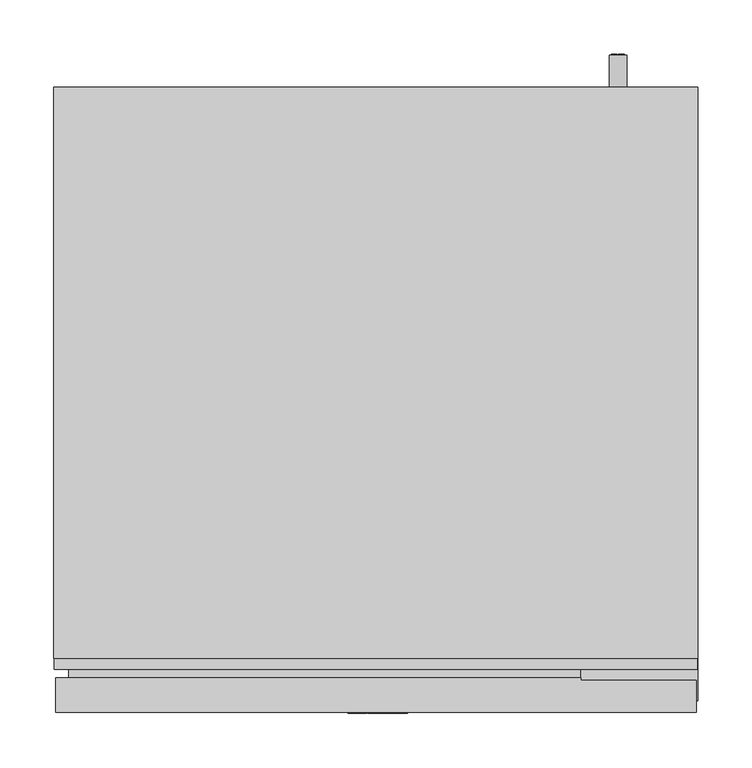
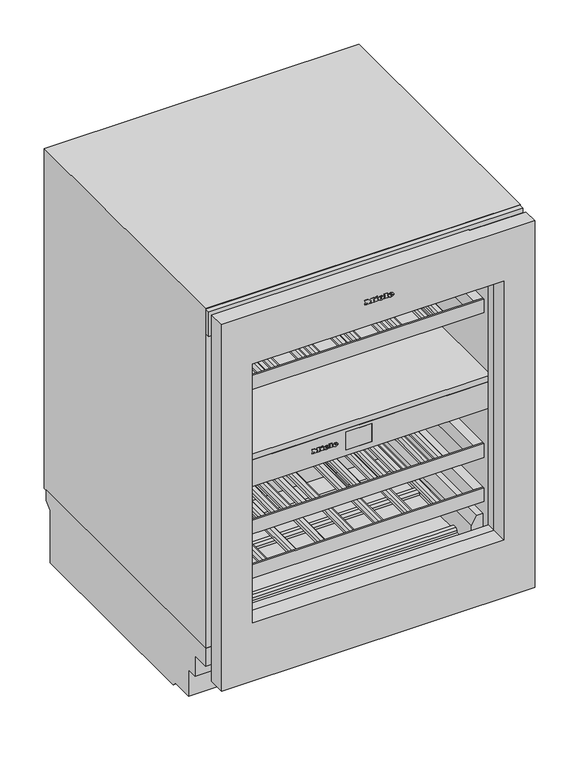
"""IFC4 building model written with IfcOpenShell, lengths in millimetres: proxy geometry, 12519560_EU1_KWTUS7096E_OBSW : 39709610_EU1_12519560_KWTUS7096E_OBSW."""

from ifc_helpers import new_model, si_unit, point, frame, frame_2d, origin, origin_with_axes, place, context, project, spatial, polyline, circle_curve, ellipse_curve, trimmed, segment, composite_curve, outline, extrude, faceted_brep, source, transform, mapped, element, save
from ifc_brep_helpers import plane_surface, cylinder_surface, revolved_surface, extruded_surface, advanced_brep


def specialty_equipment_700358eb(model_context):
    return source(origin(), model_context, "Body", "SolidModel", [
        extrude(outline(polyline([(768.991, -25.542), (768.991, -24.453), (762.97, -24.453), (762.97, -25.542), (761.458, -25.542), (761.458, -21.582), (762.97, -21.582), (762.97, -22.662), (766.7921247, -22.662), (761.458, -18.639), (766.8982223, -14.598), (762.97, -14.598), (762.97, -15.705), (761.458, -15.705), (761.458, -8.523), (762.97, -8.523), (762.97, -9.666), (768.991, -9.666), (768.991, -8.523), (770.458, -8.523), (770.458, -14.004), (767.083, -16.632), (770.458, -19.269), (770.458, -25.542), (768.991, -25.542)])), frame((0.0, -1.0, 0.0), z_axis=(0.0, 1.0, 0.0), x_axis=(0.0, 0.0, 1.0)), (0.0, 0.0, 1.0), 1.0),
        extrude(outline(polyline([(768.991, 10.98), (768.991, 12.06), (762.97, 12.06), (762.97, 10.98), (761.458, 10.98), (761.458, 18.279), (762.97, 18.279), (762.97, 17.172), (770.458, 17.172), (770.458, 10.98), (768.991, 10.98)])), frame((0.0, -1.0, 0.0), z_axis=(0.0, 1.0, 0.0), x_axis=(0.0, 0.0, 1.0)), (0.0, 0.0, 1.0), 1.0),
        extrude(outline(polyline([(769.927, -5.382), (768.469, -4.698), (769.891, -1.647), (771.349, -2.322), (769.927, -5.382)])), frame((0.0, -1.0, 0.0), z_axis=(0.0, 1.0, 0.0), x_axis=(0.0, 0.0, 1.0)), (0.0, 0.0, 1.0), 1.0),
        extrude(outline(polyline([(768.271, -7.605), (766.66, -7.605), (766.66, -6.534), (762.97, -6.534), (762.97, -7.605), (761.458, -7.605), (761.458, -0.504), (762.97, -0.504), (762.97, -1.548), (768.271, -1.548), (768.271, -7.605)])), frame((0.0, -1.0, 0.0), z_axis=(0.0, 1.0, 0.0), x_axis=(0.0, 0.0, 1.0)), (0.0, 0.0, 1.0), 1.0),
        advanced_brep(
        [(4.455, -1.0, 763.591), (4.455, -1.0, 764.5), (10.476, -1.0, 764.5), (0.0, -1.0, 764.5), (2.475, -1.0, 761.458), (10.323, -1.0, 763.591), (7.605, -1.0, 763.591), (5.463, -1.0, 762.583), (4.455, -1.0, 765.652), (4.455, -1.0, 766.633), (5.994, -1.0, 766.633), (5.994, -1.0, 765.652), (4.455, 0.0, 763.591), (5.463, 0.0, 762.583), (7.605, 0.0, 763.591), (10.323, 0.0, 763.591), (2.475, 0.0, 761.458), (0.0, 0.0, 764.5), (10.476, 0.0, 764.5), (4.455, 0.0, 764.5), (4.455, 0.0, 765.652), (5.994, 0.0, 765.652), (5.994, 0.0, 766.633), (4.455, 0.0, 766.633)],
        [
            (0, 1),
            (1, 2),
            (2, 3, ellipse_curve(frame((5.238, -1.0, 764.5), z_axis=(0.0, -1.0, 0.0), x_axis=(-1.0, 0.0, 0.0)), 5.238, 4.329)),
            (3, 4, circle_curve(frame((3.4830491, -1.0, 764.806), z_axis=(0.0, -1.0, 0.0), x_axis=(0.0, 0.0, -1.0)), 3.4964649)),
            (4, 5, circle_curve(frame((5.1331428, -1.0, 767.182), z_axis=(0.0, -1.0, 0.0), x_axis=(0.0, 0.0, -1.0)), 6.3110933)),
            (5, 6),
            (6, 7, circle_curve(frame((5.9029412, -1.0, 764.428), z_axis=(0.0, 1.0, 0.0), x_axis=(0.0, 0.0, -1.0)), 1.896727)),
            (7, 0, circle_curve(frame((5.463, -1.0, 763.591), z_axis=(0.0, 1.0, 0.0), x_axis=(0.0, 0.0, -1.0)), 1.008)),
            (8, 9),
            (9, 10, circle_curve(frame((5.2245, -1.0, 766.633), z_axis=(0.0, 1.0, 0.0), x_axis=(0.0, 0.0, -1.0)), 0.7695)),
            (10, 11),
            (11, 8),
            (12, 13, circle_curve(frame((5.463, 0.0, 763.591), z_axis=(0.0, -1.0, 0.0), x_axis=(0.0, 0.0, -1.0)), 1.008)),
            (13, 14, circle_curve(frame((5.9029412, 0.0, 764.428), z_axis=(0.0, -1.0, 0.0), x_axis=(0.0, 0.0, -1.0)), 1.896727)),
            (14, 15),
            (15, 16, circle_curve(frame((5.1331428, 0.0, 767.182), z_axis=(0.0, 1.0, 0.0), x_axis=(0.0, 0.0, -1.0)), 6.3110933)),
            (16, 17, circle_curve(frame((3.4830491, 0.0, 764.806), z_axis=(0.0, 1.0, 0.0), x_axis=(0.0, 0.0, -1.0)), 3.4964649)),
            (17, 18, ellipse_curve(frame((5.238, 0.0, 764.5), z_axis=(0.0, 1.0, 0.0), x_axis=(-1.0, 0.0, 0.0)), 5.238, 4.329)),
            (18, 19),
            (19, 12),
            (20, 21),
            (21, 22),
            (22, 23, circle_curve(frame((5.2245, 0.0, 766.633), z_axis=(0.0, -1.0, 0.0), x_axis=(0.0, 0.0, -1.0)), 0.7695)),
            (23, 20),
            (0, 12),
            (19, 1),
            (18, 2),
            (5, 15),
            (14, 6),
            (17, 3),
            (13, 7),
            (16, 4),
            (8, 20),
            (23, 9),
            (22, 10),
            (21, 11),
        ],
        [
            plane_surface(frame((4.455, -1.0, 764.5), z_axis=(0.0, -1.0, 0.0), x_axis=(0.0, 0.0, 1.0))),
            plane_surface(frame((4.455, 0.0, 764.5), z_axis=(0.0, 1.0, 0.0), x_axis=(0.0, 0.0, -1.0))),
            plane_surface(frame((4.455, -1.0, 763.591), z_axis=(1.0, 0.0, 0.0), x_axis=(0.0, 1.0, 0.0))),
            plane_surface(frame((4.455, -1.0, 764.5), z_axis=(0.0, 0.0, -1.0), x_axis=(0.0, 1.0, 0.0))),
            plane_surface(frame((10.323, -1.0, 763.591), z_axis=(0.0, 0.0, 1.0), x_axis=(0.0, 1.0, 0.0))),
            extruded_surface(trimmed(ellipse_curve(frame((5.238, 1.0, 764.5), z_axis=(0.0, -1.0, 0.0), x_axis=(-1.0, 0.0, 0.0)), 5.238, 4.329), [point((10.476, 1.0, 764.5))], [point((0.0, 1.0, 764.5))], True, "CARTESIAN"), (0.0, -1.0, 0.0), 1.0),
            revolved_surface(polyline([(5.9029412, 0.0, 762.5312729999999), (5.9029412, -1.0, 762.5312729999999)]), (5.9029412, 0.0, 764.428), (0.0, 1.0, 0.0)),
            revolved_surface(polyline([(5.463, 0.0, 762.583), (5.463, -1.0, 762.583)]), (5.463, 0.0, 763.591), (0.0, 1.0, 0.0)),
            cylinder_surface(frame((3.4830491, 0.0, 764.806), z_axis=(0.0, -1.0, 0.0), x_axis=(0.0, 0.0, -1.0)), 3.4964649),
            cylinder_surface(frame((5.1331428, 0.0, 767.182), z_axis=(0.0, -1.0, 0.0), x_axis=(0.0, 0.0, -1.0)), 6.3110933),
            plane_surface(frame((4.455, -1.0, 765.652), z_axis=(1.0, 0.0, 0.0), x_axis=(0.0, 1.0, 0.0))),
            revolved_surface(polyline([(5.2245, 0.0, 765.8635), (5.2245, -1.0, 765.8635)]), (5.2245, 0.0, 766.633), (0.0, 1.0, 0.0)),
            plane_surface(frame((5.994, -1.0, 766.633), z_axis=(-1.0, 0.0, 0.0), x_axis=(0.0, 1.0, 0.0))),
            plane_surface(frame((5.994, -1.0, 765.652), z_axis=(0.0, 0.0, 1.0), x_axis=(0.0, 1.0, 0.0))),
        ],
        [
            (0, [[1, 2, 3, 4, 5, 6, 7, 8], [9, 10, 11, 12]]),
            (1, [[13, 14, 15, 16, 17, 18, 19, 20], [21, 22, 23, 24]]),
            (2, [[-1, 25, -20, 26]]),
            (3, [[-2, -26, -19, 27]]),
            (4, [[-6, 28, -15, 29]]),
            (5, [[-3, -27, -18, 30]]),
            (6, [[-7, -29, -14, 31]]),
            (7, [[-8, -31, -13, -25]]),
            (8, [[-4, -30, -17, 32]]),
            (9, [[-5, -32, -16, -28]]),
            (10, [[-9, 33, -24, 34]]),
            (11, [[-10, -34, -23, 35]]),
            (12, [[-11, -35, -22, 36]]),
            (13, [[-12, -36, -21, -33]]),
        ],
    ),
        advanced_brep(
        [(23.238, -1.0, 763.591), (23.238, -1.0, 764.5), (29.259, -1.0, 764.5), (18.783, -1.0, 764.5), (21.258, -1.0, 761.458), (29.106, -1.0, 763.591), (26.388, -1.0, 763.591), (24.246, -1.0, 762.583), (23.238, -1.0, 765.652), (23.238, -1.0, 766.633), (24.777, -1.0, 766.633), (24.777, -1.0, 765.652), (23.238, 0.0, 763.591), (24.246, 0.0, 762.583), (26.388, 0.0, 763.591), (29.106, 0.0, 763.591), (21.258, 0.0, 761.458), (18.783, 0.0, 764.5), (29.259, 0.0, 764.5), (23.238, 0.0, 764.5), (23.238, 0.0, 765.652), (24.777, 0.0, 765.652), (24.777, 0.0, 766.633), (23.238, 0.0, 766.633)],
        [
            (0, 1),
            (1, 2),
            (2, 3, ellipse_curve(frame((24.021, -1.0, 764.5), z_axis=(0.0, -1.0, 0.0), x_axis=(-1.0, 0.0, 0.0)), 5.238, 4.329)),
            (3, 4, circle_curve(frame((22.2660491, -1.0, 764.806), z_axis=(0.0, -1.0, 0.0), x_axis=(0.0, 0.0, -1.0)), 3.4964649)),
            (4, 5, circle_curve(frame((23.9161428, -1.0, 767.182), z_axis=(0.0, -1.0, 0.0), x_axis=(0.0, 0.0, -1.0)), 6.3110933)),
            (5, 6),
            (6, 7, circle_curve(frame((24.6859412, -1.0, 764.428), z_axis=(0.0, 1.0, 0.0), x_axis=(0.0, 0.0, -1.0)), 1.896727)),
            (7, 0, circle_curve(frame((24.246, -1.0, 763.591), z_axis=(0.0, 1.0, 0.0), x_axis=(0.0, 0.0, -1.0)), 1.008)),
            (8, 9),
            (9, 10, circle_curve(frame((24.0075, -1.0, 766.633), z_axis=(0.0, 1.0, 0.0), x_axis=(0.0, 0.0, -1.0)), 0.7695)),
            (10, 11),
            (11, 8),
            (12, 13, circle_curve(frame((24.246, 0.0, 763.591), z_axis=(0.0, -1.0, 0.0), x_axis=(0.0, 0.0, -1.0)), 1.008)),
            (13, 14, circle_curve(frame((24.6859412, 0.0, 764.428), z_axis=(0.0, -1.0, 0.0), x_axis=(0.0, 0.0, -1.0)), 1.896727)),
            (14, 15),
            (15, 16, circle_curve(frame((23.9161428, 0.0, 767.182), z_axis=(0.0, 1.0, 0.0), x_axis=(0.0, 0.0, -1.0)), 6.3110933)),
            (16, 17, circle_curve(frame((22.2660491, 0.0, 764.806), z_axis=(0.0, 1.0, 0.0), x_axis=(0.0, 0.0, -1.0)), 3.4964649)),
            (17, 18, ellipse_curve(frame((24.021, 0.0, 764.5), z_axis=(0.0, 1.0, 0.0), x_axis=(-1.0, 0.0, 0.0)), 5.238, 4.329)),
            (18, 19),
            (19, 12),
            (20, 21),
            (21, 22),
            (22, 23, circle_curve(frame((24.0075, 0.0, 766.633), z_axis=(0.0, -1.0, 0.0), x_axis=(0.0, 0.0, -1.0)), 0.7695)),
            (23, 20),
            (0, 12),
            (19, 1),
            (18, 2),
            (5, 15),
            (14, 6),
            (17, 3),
            (13, 7),
            (16, 4),
            (8, 20),
            (23, 9),
            (22, 10),
            (21, 11),
        ],
        [
            plane_surface(frame((23.238, -1.0, 764.5), z_axis=(0.0, -1.0, 0.0), x_axis=(0.0, 0.0, 1.0))),
            plane_surface(frame((23.238, 0.0, 764.5), z_axis=(0.0, 1.0, 0.0), x_axis=(0.0, 0.0, -1.0))),
            plane_surface(frame((23.238, -1.0, 763.591), z_axis=(1.0, 0.0, 0.0), x_axis=(0.0, 1.0, 0.0))),
            plane_surface(frame((23.238, -1.0, 764.5), z_axis=(0.0, 0.0, -1.0), x_axis=(0.0, 1.0, 0.0))),
            plane_surface(frame((29.106, -1.0, 763.591), z_axis=(0.0, 0.0, 1.0), x_axis=(0.0, 1.0, 0.0))),
            extruded_surface(trimmed(ellipse_curve(frame((24.021, 1.0, 764.5), z_axis=(0.0, -1.0, 0.0), x_axis=(-1.0, 0.0, 0.0)), 5.238, 4.329), [point((29.259, 1.0, 764.5))], [point((18.783, 1.0, 764.5))], True, "CARTESIAN"), (0.0, -1.0, 0.0), 1.0),
            revolved_surface(polyline([(24.6859412, 0.0, 762.5312729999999), (24.6859412, -1.0, 762.5312729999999)]), (24.6859412, 0.0, 764.428), (0.0, 1.0, 0.0)),
            revolved_surface(polyline([(24.246, 0.0, 762.583), (24.246, -1.0, 762.583)]), (24.246, 0.0, 763.591), (0.0, 1.0, 0.0)),
            cylinder_surface(frame((22.2660491, 0.0, 764.806), z_axis=(0.0, -1.0, 0.0), x_axis=(0.0, 0.0, -1.0)), 3.4964649),
            cylinder_surface(frame((23.9161428, 0.0, 767.182), z_axis=(0.0, -1.0, 0.0), x_axis=(0.0, 0.0, -1.0)), 6.3110933),
            plane_surface(frame((23.238, -1.0, 765.652), z_axis=(1.0, 0.0, 0.0), x_axis=(0.0, 1.0, 0.0))),
            revolved_surface(polyline([(24.0075, 0.0, 765.8635), (24.0075, -1.0, 765.8635)]), (24.0075, 0.0, 766.633), (0.0, 1.0, 0.0)),
            plane_surface(frame((24.777, -1.0, 766.633), z_axis=(-1.0, 0.0, 0.0), x_axis=(0.0, 1.0, 0.0))),
            plane_surface(frame((24.777, -1.0, 765.652), z_axis=(0.0, 0.0, 1.0), x_axis=(0.0, 1.0, 0.0))),
        ],
        [
            (0, [[1, 2, 3, 4, 5, 6, 7, 8], [9, 10, 11, 12]]),
            (1, [[13, 14, 15, 16, 17, 18, 19, 20], [21, 22, 23, 24]]),
            (2, [[-1, 25, -20, 26]]),
            (3, [[-2, -26, -19, 27]]),
            (4, [[-6, 28, -15, 29]]),
            (5, [[-3, -27, -18, 30]]),
            (6, [[-7, -29, -14, 31]]),
            (7, [[-8, -31, -13, -25]]),
            (8, [[-4, -30, -17, 32]]),
            (9, [[-5, -32, -16, -28]]),
            (10, [[-9, 33, -24, 34]]),
            (11, [[-10, -34, -23, 35]]),
            (12, [[-11, -35, -22, 36]]),
            (13, [[-12, -36, -21, -33]]),
        ],
    ),
        extrude(outline(polyline([(454.1556157, -89.367984), (454.1556157, -88.399984), (448.8036157, -88.399984), (448.8036157, -89.367984), (447.4596157, -89.367984), (447.4596157, -85.847984), (448.8036157, -85.847984), (448.8036157, -86.807984), (452.2067404, -86.807984), (447.4596157, -83.231984), (452.274838, -79.639984), (448.8036157, -79.639984), (448.8036157, -80.623984), (447.4596157, -80.623984), (447.4596157, -74.239984), (448.8036157, -74.239984), (448.8036157, -75.255984), (454.1556157, -75.255984), (454.1556157, -74.239984), (455.4596157, -74.239984), (455.4596157, -79.111984), (452.4596157, -81.447984), (455.4596157, -83.791984), (455.4596157, -89.367984), (454.1556157, -89.367984)])), frame((0.0, 62.0, 0.0), z_axis=(0.0, 1.0, 0.0), x_axis=(0.0, 0.0, 1.0)), (0.0, 0.0, 1.0), 1.0),
        extrude(outline(polyline([(454.1556157, -56.903984), (454.1556157, -55.943984), (448.8036157, -55.943984), (448.8036157, -56.903984), (447.4596157, -56.903984), (447.4596157, -50.415984), (448.8036157, -50.415984), (448.8036157, -51.399984), (455.4596157, -51.399984), (455.4596157, -56.903984), (454.1556157, -56.903984)])), frame((0.0, 62.0, 0.0), z_axis=(0.0, 1.0, 0.0), x_axis=(0.0, 0.0, 1.0)), (0.0, 0.0, 1.0), 1.0),
        extrude(outline(polyline([(454.9876157, -71.447984), (453.6916157, -70.839984), (454.9556157, -68.127984), (456.2516157, -68.727984), (454.9876157, -71.447984)])), frame((0.0, 62.0, 0.0), z_axis=(0.0, 1.0, 0.0), x_axis=(0.0, 0.0, 1.0)), (0.0, 0.0, 1.0), 1.0),
        extrude(outline(polyline([(453.5156157, -73.423984), (452.0836157, -73.423984), (452.0836157, -72.471984), (448.8036157, -72.471984), (448.8036157, -73.423984), (447.4596157, -73.423984), (447.4596157, -67.111984), (448.8036157, -67.111984), (448.8036157, -68.039984), (453.5156157, -68.039984), (453.5156157, -73.423984)])), frame((0.0, 62.0, 0.0), z_axis=(0.0, 1.0, 0.0), x_axis=(0.0, 0.0, 1.0)), (0.0, 0.0, 1.0), 1.0),
        advanced_brep(
        [(-62.703984, 62.0, 449.3556157), (-62.703984, 62.0, 450.1636157), (-57.351984, 62.0, 450.1636157), (-66.663984, 62.0, 450.1636157), (-64.463984, 62.0, 447.4596157), (-57.487984, 62.0, 449.3556157), (-59.903984, 62.0, 449.3556157), (-61.807984, 62.0, 448.4596157), (-62.703984, 62.0, 451.1876157), (-62.703984, 62.0, 452.0596157), (-61.335984, 62.0, 452.0596157), (-61.335984, 62.0, 451.1876157), (-62.703984, 63.0, 449.3556157), (-61.807984, 63.0, 448.4596157), (-59.903984, 63.0, 449.3556157), (-57.487984, 63.0, 449.3556157), (-64.463984, 63.0, 447.4596157), (-66.663984, 63.0, 450.1636157), (-57.351984, 63.0, 450.1636157), (-62.703984, 63.0, 450.1636157), (-62.703984, 63.0, 451.1876157), (-61.335984, 63.0, 451.1876157), (-61.335984, 63.0, 452.0596157), (-62.703984, 63.0, 452.0596157)],
        [
            (0, 1),
            (1, 2),
            (2, 3, ellipse_curve(frame((-62.007984, 62.0, 450.1636157), z_axis=(0.0, -1.0, 0.0), x_axis=(-1.0, 0.0, 0.0)), 4.656, 3.848)),
            (3, 4, circle_curve(frame((-63.5679404, 62.0, 450.4356157), z_axis=(0.0, -1.0, 0.0), x_axis=(0.0, 0.0, -1.0)), 3.1079688)),
            (4, 5, circle_curve(frame((-62.1011904, 62.0, 452.5476157), z_axis=(0.0, -1.0, 0.0), x_axis=(0.0, 0.0, -1.0)), 5.6098607)),
            (5, 6),
            (6, 7, circle_curve(frame((-61.4169252, 62.0, 450.0996157), z_axis=(0.0, 1.0, 0.0), x_axis=(0.0, 0.0, -1.0)), 1.6859795)),
            (7, 0, circle_curve(frame((-61.807984, 62.0, 449.3556157), z_axis=(0.0, 1.0, 0.0), x_axis=(0.0, 0.0, -1.0)), 0.896)),
            (8, 9),
            (9, 10, circle_curve(frame((-62.019984, 62.0, 452.0596157), z_axis=(0.0, 1.0, 0.0), x_axis=(0.0, 0.0, -1.0)), 0.684)),
            (10, 11),
            (11, 8),
            (12, 13, circle_curve(frame((-61.807984, 63.0, 449.3556157), z_axis=(0.0, -1.0, 0.0), x_axis=(0.0, 0.0, -1.0)), 0.896)),
            (13, 14, circle_curve(frame((-61.4169252, 63.0, 450.0996157), z_axis=(0.0, -1.0, 0.0), x_axis=(0.0, 0.0, -1.0)), 1.6859795)),
            (14, 15),
            (15, 16, circle_curve(frame((-62.1011904, 63.0, 452.5476157), z_axis=(0.0, 1.0, 0.0), x_axis=(0.0, 0.0, -1.0)), 5.6098607)),
            (16, 17, circle_curve(frame((-63.5679404, 63.0, 450.4356157), z_axis=(0.0, 1.0, 0.0), x_axis=(0.0, 0.0, -1.0)), 3.1079688)),
            (17, 18, ellipse_curve(frame((-62.007984, 63.0, 450.1636157), z_axis=(0.0, 1.0, 0.0), x_axis=(-1.0, 0.0, 0.0)), 4.656, 3.848)),
            (18, 19),
            (19, 12),
            (20, 21),
            (21, 22),
            (22, 23, circle_curve(frame((-62.019984, 63.0, 452.0596157), z_axis=(0.0, -1.0, 0.0), x_axis=(0.0, 0.0, -1.0)), 0.684)),
            (23, 20),
            (0, 12),
            (19, 1),
            (18, 2),
            (5, 15),
            (14, 6),
            (17, 3),
            (13, 7),
            (16, 4),
            (8, 20),
            (23, 9),
            (22, 10),
            (21, 11),
        ],
        [
            plane_surface(frame((-62.703984, 62.0, 450.1636157), z_axis=(0.0, -1.0, 0.0), x_axis=(0.0, 0.0, 1.0))),
            plane_surface(frame((-62.703984, 63.0, 450.1636157), z_axis=(0.0, 1.0, 0.0), x_axis=(0.0, 0.0, -1.0))),
            plane_surface(frame((-62.703984, 62.0, 449.3556157), z_axis=(1.0, 0.0, 0.0), x_axis=(0.0, 1.0, 0.0))),
            plane_surface(frame((-62.703984, 62.0, 450.1636157), z_axis=(0.0, 0.0, -1.0), x_axis=(0.0, 1.0, 0.0))),
            plane_surface(frame((-57.487984, 62.0, 449.3556157), z_axis=(0.0, 0.0, 1.0), x_axis=(0.0, 1.0, 0.0))),
            extruded_surface(trimmed(ellipse_curve(frame((-62.007984, 64.0, 450.1636157), z_axis=(0.0, -1.0, 0.0), x_axis=(-1.0, 0.0, 0.0)), 4.656, 3.848), [point((-57.351984, 64.0, 450.1636157))], [point((-66.663984, 64.0, 450.1636157))], True, "CARTESIAN"), (0.0, -1.0, 0.0), 1.0),
            revolved_surface(polyline([(-61.4169252, 63.0, 448.41363620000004), (-61.4169252, 62.0, 448.41363620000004)]), (-61.4169252, 63.0, 450.0996157), (0.0, 1.0, 0.0)),
            revolved_surface(polyline([(-61.807984, 63.0, 448.4596157), (-61.807984, 62.0, 448.4596157)]), (-61.807984, 63.0, 449.3556157), (0.0, 1.0, 0.0)),
            cylinder_surface(frame((-63.5679404, 63.0, 450.4356157), z_axis=(0.0, -1.0, 0.0), x_axis=(0.0, 0.0, -1.0)), 3.1079688),
            cylinder_surface(frame((-62.1011904, 63.0, 452.5476157), z_axis=(0.0, -1.0, 0.0), x_axis=(0.0, 0.0, -1.0)), 5.6098607),
            plane_surface(frame((-62.703984, 62.0, 451.1876157), z_axis=(1.0, 0.0, 0.0), x_axis=(0.0, 1.0, 0.0))),
            revolved_surface(polyline([(-62.019984, 63.0, 451.37561569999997), (-62.019984, 62.0, 451.37561569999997)]), (-62.019984, 63.0, 452.0596157), (0.0, 1.0, 0.0)),
            plane_surface(frame((-61.335984, 62.0, 452.0596157), z_axis=(-1.0, 0.0, 0.0), x_axis=(0.0, 1.0, 0.0))),
            plane_surface(frame((-61.335984, 62.0, 451.1876157), z_axis=(0.0, 0.0, 1.0), x_axis=(0.0, 1.0, 0.0))),
        ],
        [
            (0, [[1, 2, 3, 4, 5, 6, 7, 8], [9, 10, 11, 12]]),
            (1, [[13, 14, 15, 16, 17, 18, 19, 20], [21, 22, 23, 24]]),
            (2, [[-1, 25, -20, 26]]),
            (3, [[-2, -26, -19, 27]]),
            (4, [[-6, 28, -15, 29]]),
            (5, [[-3, -27, -18, 30]]),
            (6, [[-7, -29, -14, 31]]),
            (7, [[-8, -31, -13, -25]]),
            (8, [[-4, -30, -17, 32]]),
            (9, [[-5, -32, -16, -28]]),
            (10, [[-9, 33, -24, 34]]),
            (11, [[-10, -34, -23, 35]]),
            (12, [[-11, -35, -22, 36]]),
            (13, [[-12, -36, -21, -33]]),
        ],
    ),
        advanced_brep(
        [(-46.007984, 62.0, 449.3556157), (-46.007984, 62.0, 450.1636157), (-40.655984, 62.0, 450.1636157), (-49.967984, 62.0, 450.1636157), (-47.767984, 62.0, 447.4596157), (-40.791984, 62.0, 449.3556157), (-43.207984, 62.0, 449.3556157), (-45.111984, 62.0, 448.4596157), (-46.007984, 62.0, 451.1876157), (-46.007984, 62.0, 452.0596157), (-44.639984, 62.0, 452.0596157), (-44.639984, 62.0, 451.1876157), (-46.007984, 63.0, 449.3556157), (-45.111984, 63.0, 448.4596157), (-43.207984, 63.0, 449.3556157), (-40.791984, 63.0, 449.3556157), (-47.767984, 63.0, 447.4596157), (-49.967984, 63.0, 450.1636157), (-40.655984, 63.0, 450.1636157), (-46.007984, 63.0, 450.1636157), (-46.007984, 63.0, 451.1876157), (-44.639984, 63.0, 451.1876157), (-44.639984, 63.0, 452.0596157), (-46.007984, 63.0, 452.0596157)],
        [
            (0, 1),
            (1, 2),
            (2, 3, ellipse_curve(frame((-45.311984, 62.0, 450.1636157), z_axis=(0.0, -1.0, 0.0), x_axis=(-1.0, 0.0, 0.0)), 4.656, 3.848)),
            (3, 4, circle_curve(frame((-46.8719404, 62.0, 450.4356157), z_axis=(0.0, -1.0, 0.0), x_axis=(0.0, 0.0, -1.0)), 3.1079688)),
            (4, 5, circle_curve(frame((-45.4051904, 62.0, 452.5476157), z_axis=(0.0, -1.0, 0.0), x_axis=(0.0, 0.0, -1.0)), 5.6098607)),
            (5, 6),
            (6, 7, circle_curve(frame((-44.7209252, 62.0, 450.0996157), z_axis=(0.0, 1.0, 0.0), x_axis=(0.0, 0.0, -1.0)), 1.6859795)),
            (7, 0, circle_curve(frame((-45.111984, 62.0, 449.3556157), z_axis=(0.0, 1.0, 0.0), x_axis=(0.0, 0.0, -1.0)), 0.896)),
            (8, 9),
            (9, 10, circle_curve(frame((-45.323984, 62.0, 452.0596157), z_axis=(0.0, 1.0, 0.0), x_axis=(0.0, 0.0, -1.0)), 0.684)),
            (10, 11),
            (11, 8),
            (12, 13, circle_curve(frame((-45.111984, 63.0, 449.3556157), z_axis=(0.0, -1.0, 0.0), x_axis=(0.0, 0.0, -1.0)), 0.896)),
            (13, 14, circle_curve(frame((-44.7209252, 63.0, 450.0996157), z_axis=(0.0, -1.0, 0.0), x_axis=(0.0, 0.0, -1.0)), 1.6859795)),
            (14, 15),
            (15, 16, circle_curve(frame((-45.4051904, 63.0, 452.5476157), z_axis=(0.0, 1.0, 0.0), x_axis=(0.0, 0.0, -1.0)), 5.6098607)),
            (16, 17, circle_curve(frame((-46.8719404, 63.0, 450.4356157), z_axis=(0.0, 1.0, 0.0), x_axis=(0.0, 0.0, -1.0)), 3.1079688)),
            (17, 18, ellipse_curve(frame((-45.311984, 63.0, 450.1636157), z_axis=(0.0, 1.0, 0.0), x_axis=(-1.0, 0.0, 0.0)), 4.656, 3.848)),
            (18, 19),
            (19, 12),
            (20, 21),
            (21, 22),
            (22, 23, circle_curve(frame((-45.323984, 63.0, 452.0596157), z_axis=(0.0, -1.0, 0.0), x_axis=(0.0, 0.0, -1.0)), 0.684)),
            (23, 20),
            (0, 12),
            (19, 1),
            (18, 2),
            (5, 15),
            (14, 6),
            (17, 3),
            (13, 7),
            (16, 4),
            (8, 20),
            (23, 9),
            (22, 10),
            (21, 11),
        ],
        [
            plane_surface(frame((-46.007984, 62.0, 450.1636157), z_axis=(0.0, -1.0, 0.0), x_axis=(0.0, 0.0, 1.0))),
            plane_surface(frame((-46.007984, 63.0, 450.1636157), z_axis=(0.0, 1.0, 0.0), x_axis=(0.0, 0.0, -1.0))),
            plane_surface(frame((-46.007984, 62.0, 449.3556157), z_axis=(1.0, 0.0, 0.0), x_axis=(0.0, 1.0, 0.0))),
            plane_surface(frame((-46.007984, 62.0, 450.1636157), z_axis=(0.0, 0.0, -1.0), x_axis=(0.0, 1.0, 0.0))),
            plane_surface(frame((-40.791984, 62.0, 449.3556157), z_axis=(0.0, 0.0, 1.0), x_axis=(0.0, 1.0, 0.0))),
            extruded_surface(trimmed(ellipse_curve(frame((-45.311984, 64.0, 450.1636157), z_axis=(0.0, -1.0, 0.0), x_axis=(-1.0, 0.0, 0.0)), 4.656, 3.848), [point((-40.655984, 64.0, 450.1636157))], [point((-49.967984, 64.0, 450.1636157))], True, "CARTESIAN"), (0.0, -1.0, 0.0), 1.0),
            revolved_surface(polyline([(-44.7209252, 63.0, 448.41363620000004), (-44.7209252, 62.0, 448.41363620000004)]), (-44.7209252, 63.0, 450.0996157), (0.0, 1.0, 0.0)),
            revolved_surface(polyline([(-45.111984, 63.0, 448.4596157), (-45.111984, 62.0, 448.4596157)]), (-45.111984, 63.0, 449.3556157), (0.0, 1.0, 0.0)),
            cylinder_surface(frame((-46.8719404, 63.0, 450.4356157), z_axis=(0.0, -1.0, 0.0), x_axis=(0.0, 0.0, -1.0)), 3.1079688),
            cylinder_surface(frame((-45.4051904, 63.0, 452.5476157), z_axis=(0.0, -1.0, 0.0), x_axis=(0.0, 0.0, -1.0)), 5.6098607),
            plane_surface(frame((-46.007984, 62.0, 451.1876157), z_axis=(1.0, 0.0, 0.0), x_axis=(0.0, 1.0, 0.0))),
            revolved_surface(polyline([(-45.323984, 63.0, 451.37561569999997), (-45.323984, 62.0, 451.37561569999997)]), (-45.323984, 63.0, 452.0596157), (0.0, 1.0, 0.0)),
            plane_surface(frame((-44.639984, 62.0, 452.0596157), z_axis=(-1.0, 0.0, 0.0), x_axis=(0.0, 1.0, 0.0))),
            plane_surface(frame((-44.639984, 62.0, 451.1876157), z_axis=(0.0, 0.0, 1.0), x_axis=(0.0, 1.0, 0.0))),
        ],
        [
            (0, [[1, 2, 3, 4, 5, 6, 7, 8], [9, 10, 11, 12]]),
            (1, [[13, 14, 15, 16, 17, 18, 19, 20], [21, 22, 23, 24]]),
            (2, [[-1, 25, -20, 26]]),
            (3, [[-2, -26, -19, 27]]),
            (4, [[-6, 28, -15, 29]]),
            (5, [[-3, -27, -18, 30]]),
            (6, [[-7, -29, -14, 31]]),
            (7, [[-8, -31, -13, -25]]),
            (8, [[-4, -30, -17, 32]]),
            (9, [[-5, -32, -16, -28]]),
            (10, [[-9, 33, -24, 34]]),
            (11, [[-10, -34, -23, 35]]),
            (12, [[-11, -35, -22, 36]]),
            (13, [[-12, -36, -21, -33]]),
        ],
    ),
        extrude(outline(polyline([(238.8, -157.5), (243.5052612, -157.5), (247.5052612, -161.5), (247.5052612, -168.5), (243.5052612, -172.5), (238.8, -172.5), (238.8, -157.5)])), frame((0.0, 68.5000244, 0.0), z_axis=(0.0, 1.0, 0.0), x_axis=(0.0, 0.0, 1.0)), (0.0, 0.0, 1.0), 419.111792),
        extrude(outline(polyline([(238.8, -102.5), (243.5052612, -102.5), (247.5052612, -106.5), (247.5052612, -113.5), (243.5052612, -117.5), (238.8, -117.5), (238.8, -102.5)])), frame((0.0, 68.5000244, 0.0), z_axis=(0.0, 1.0, 0.0), x_axis=(0.0, 0.0, 1.0)), (0.0, 0.0, 1.0), 419.111792),
        extrude(outline(polyline([(238.8, 157.5), (238.8, 172.5), (243.5052612, 172.5), (247.5052612, 168.5), (247.5052612, 161.5), (243.5052612, 157.5), (238.8, 157.5)])), frame((0.0, 68.5000244, 0.0), z_axis=(0.0, 1.0, 0.0), x_axis=(0.0, 0.0, 1.0)), (0.0, 0.0, 1.0), 419.111792),
        extrude(outline(polyline([(238.8, 102.5), (238.8, 117.5), (243.5052612, 117.5), (247.5052612, 113.5), (247.5052612, 106.5), (243.5052612, 102.5), (238.8, 102.5)])), frame((0.0, 68.5000244, 0.0), z_axis=(0.0, 1.0, 0.0), x_axis=(0.0, 0.0, 1.0)), (0.0, 0.0, 1.0), 419.111792),
        extrude(outline(polyline([(238.8, -47.5), (243.5052612, -47.5), (247.5052612, -51.5), (247.5052612, -58.5), (243.5052612, -62.5), (238.8, -62.5), (238.8, -47.5)])), frame((0.0, 68.5000244, 0.0), z_axis=(0.0, 1.0, 0.0), x_axis=(0.0, 0.0, 1.0)), (0.0, 0.0, 1.0), 419.111792),
        extrude(outline(polyline([(238.8, 47.5), (238.8, 62.5), (243.5052612, 62.5), (247.5052612, 58.5), (247.5052612, 51.5), (243.5052612, 47.5), (238.8, 47.5)])), frame((0.0, 68.5000244, 0.0), z_axis=(0.0, 1.0, 0.0), x_axis=(0.0, 0.0, 1.0)), (0.0, 0.0, 1.0), 419.111792),
        extrude(outline(polyline([(238.8, 7.5), (243.5052612, 7.5), (247.5052612, 3.5), (247.5052612, -3.5), (243.5052612, -7.5), (238.8, -7.5), (238.8, 7.5)])), frame((0.0, 68.5000244, 0.0), z_axis=(0.0, 1.0, 0.0), x_axis=(0.0, 0.0, 1.0)), (0.0, 0.0, 1.0), 419.111792),
        extrude(outline(polyline([(238.5, 65.0000244), (-238.5, 65.0000244), (-238.5, 68.5000244), (238.5, 68.5000244), (238.5, 65.0000244)])), frame((0.0, 0.0, 146.0), z_axis=(0.0, 0.0, 1.0), x_axis=(1.0, 0.0, 0.0)), (0.0, 0.0, 1.0), 27.5),
        extrude(outline(polyline([(209.0, -226.9226475), (209.0, -238.5), (141.0206134, -238.5), (141.0206134, -216.8069153), (191.4790485, -216.8069153), (209.0, -226.9226475)])), frame((0.0, 68.5000244, 0.0), z_axis=(0.0, 1.0, 0.0), x_axis=(0.0, 0.0, 1.0)), (0.0, 0.0, 1.0), 294.1981801),
        extrude(outline(polyline([(209.0, 226.9226475), (191.4790485, 216.8069153), (141.0206134, 216.8069153), (141.0206134, 238.5), (209.0, 238.5), (209.0, 226.9226475)])), frame((0.0, 68.5000244, 0.0), z_axis=(0.0, 1.0, 0.0), x_axis=(0.0, 0.0, 1.0)), (0.0, 0.0, 1.0), 294.1981801),
        extrude(outline(polyline([(238.5, 65.0000244), (-238.5, 65.0000244), (-238.5, 68.5000244), (238.5, 68.5000244), (238.5, 65.0000244)])), frame((0.0, 0.0, 324.0), z_axis=(0.0, 0.0, 1.0), x_axis=(1.0, 0.0, 0.0)), (0.0, 0.0, 1.0), 27.5),
        extrude(outline(polyline([(618.2947388, -160.4764937), (623.0, -160.4764937), (627.0, -164.4764937), (627.0, -171.4764937), (623.0, -175.4764937), (618.2947388, -175.4764937), (618.2947388, -160.4764937)])), frame((0.0, 68.5000244, 0.0), z_axis=(0.0, 1.0, 0.0), x_axis=(0.0, 0.0, 1.0)), (0.0, 0.0, 1.0), 419.111792),
        extrude(outline(polyline([(618.2947388, -134.5453754), (623.0, -134.5453754), (627.0, -138.5453754), (627.0, -145.5453754), (623.0, -149.5453754), (618.2947388, -149.5453754), (618.2947388, -134.5453754)])), frame((0.0, 68.5000244, 0.0), z_axis=(0.0, 1.0, 0.0), x_axis=(0.0, 0.0, 1.0)), (0.0, 0.0, 1.0), 419.111792),
        extrude(outline(polyline([(618.2947388, -82.9166641), (623.0, -82.9166641), (627.0, -86.9166641), (627.0, -93.9166641), (623.0, -97.9166641), (618.2947388, -97.9166641), (618.2947388, -82.9166641)])), frame((0.0, 68.5000244, 0.0), z_axis=(0.0, 1.0, 0.0), x_axis=(0.0, 0.0, 1.0)), (0.0, 0.0, 1.0), 419.111792),
        extrude(outline(polyline([(618.2947388, -56.9855458), (623.0, -56.9855458), (627.0, -60.9855458), (627.0, -67.9855458), (623.0, -71.9855458), (618.2947388, -71.9855458), (618.2947388, -56.9855458)])), frame((0.0, 68.5000244, 0.0), z_axis=(0.0, 1.0, 0.0), x_axis=(0.0, 0.0, 1.0)), (0.0, 0.0, 1.0), 419.111792),
        extrude(outline(polyline([(618.2947388, 160.4764937), (618.2947388, 175.4764937), (623.0, 175.4764937), (627.0, 171.4764937), (627.0, 164.4764937), (623.0, 160.4764937), (618.2947388, 160.4764937)])), frame((0.0, 68.5000244, 0.0), z_axis=(0.0, 1.0, 0.0), x_axis=(0.0, 0.0, 1.0)), (0.0, 0.0, 1.0), 419.111792),
        extrude(outline(polyline([(618.2947388, 134.5453754), (618.2947388, 149.5453754), (623.0, 149.5453754), (627.0, 145.5453754), (627.0, 138.5453754), (623.0, 134.5453754), (618.2947388, 134.5453754)])), frame((0.0, 68.5000244, 0.0), z_axis=(0.0, 1.0, 0.0), x_axis=(0.0, 0.0, 1.0)), (0.0, 0.0, 1.0), 419.111792),
        extrude(outline(polyline([(618.2947388, 82.9166641), (618.2947388, 97.9166641), (623.0, 97.9166641), (627.0, 93.9166641), (627.0, 86.9166641), (623.0, 82.9166641), (618.2947388, 82.9166641)])), frame((0.0, 68.5000244, 0.0), z_axis=(0.0, 1.0, 0.0), x_axis=(0.0, 0.0, 1.0)), (0.0, 0.0, 1.0), 419.111792),
        extrude(outline(polyline([(618.2947388, 56.9855458), (618.2947388, 71.9855458), (623.0, 71.9855458), (627.0, 67.9855458), (627.0, 60.9855458), (623.0, 56.9855458), (618.2947388, 56.9855458)])), frame((0.0, 68.5000244, 0.0), z_axis=(0.0, 1.0, 0.0), x_axis=(0.0, 0.0, 1.0)), (0.0, 0.0, 1.0), 419.111792),
        extrude(outline(polyline([(618.2947388, -5.416666), (623.0, -5.416666), (627.0, -9.416666), (627.0, -16.416666), (623.0, -20.416666), (618.2947388, -20.416666), (618.2947388, -5.416666)])), frame((0.0, 68.5000244, 0.0), z_axis=(0.0, 1.0, 0.0), x_axis=(0.0, 0.0, 1.0)), (0.0, 0.0, 1.0), 419.111792),
        extrude(outline(polyline([(618.2947388, 20.5144523), (623.0, 20.5144523), (627.0, 16.5144523), (627.0, 9.5144523), (623.0, 5.5144523), (618.2947388, 5.5144523), (618.2947388, 20.5144523)])), frame((0.0, 68.5000244, 0.0), z_axis=(0.0, 1.0, 0.0), x_axis=(0.0, 0.0, 1.0)), (0.0, 0.0, 1.0), 419.111792),
        extrude(outline(polyline([(328.2947388, -160.4166718), (333.0, -160.4166718), (337.0, -164.4166718), (337.0, -171.4166718), (333.0, -175.4166718), (328.2947388, -175.4166718), (328.2947388, -160.4166718)])), frame((0.0, 68.5000244, 0.0), z_axis=(0.0, 1.0, 0.0), x_axis=(0.0, 0.0, 1.0)), (0.0, 0.0, 1.0), 419.111792),
        extrude(outline(polyline([(328.2947388, -134.4855535), (333.0, -134.4855535), (337.0, -138.4855535), (337.0, -145.4855535), (333.0, -149.4855535), (328.2947388, -149.4855535), (328.2947388, -134.4855535)])), frame((0.0, 68.5000244, 0.0), z_axis=(0.0, 1.0, 0.0), x_axis=(0.0, 0.0, 1.0)), (0.0, 0.0, 1.0), 419.111792),
        extrude(outline(polyline([(328.2947388, -82.8568422), (333.0, -82.8568422), (337.0, -86.8568422), (337.0, -93.8568422), (333.0, -97.8568422), (328.2947388, -97.8568422), (328.2947388, -82.8568422)])), frame((0.0, 68.5000244, 0.0), z_axis=(0.0, 1.0, 0.0), x_axis=(0.0, 0.0, 1.0)), (0.0, 0.0, 1.0), 419.111792),
        extrude(outline(polyline([(328.2947388, -56.9257239), (333.0, -56.9257239), (337.0, -60.9257239), (337.0, -67.9257239), (333.0, -71.9257239), (328.2947388, -71.9257239), (328.2947388, -56.9257239)])), frame((0.0, 68.5000244, 0.0), z_axis=(0.0, 1.0, 0.0), x_axis=(0.0, 0.0, 1.0)), (0.0, 0.0, 1.0), 419.111792),
        extrude(outline(polyline([(328.2947388, 160.5363156), (328.2947388, 175.5363156), (333.0, 175.5363156), (337.0, 171.5363156), (337.0, 164.5363156), (333.0, 160.5363156), (328.2947388, 160.5363156)])), frame((0.0, 68.5000244, 0.0), z_axis=(0.0, 1.0, 0.0), x_axis=(0.0, 0.0, 1.0)), (0.0, 0.0, 1.0), 419.111792),
        extrude(outline(polyline([(328.2947388, 134.6051973), (328.2947388, 149.6051973), (333.0, 149.6051973), (337.0, 145.6051973), (337.0, 138.6051973), (333.0, 134.6051973), (328.2947388, 134.6051973)])), frame((0.0, 68.5000244, 0.0), z_axis=(0.0, 1.0, 0.0), x_axis=(0.0, 0.0, 1.0)), (0.0, 0.0, 1.0), 419.111792),
        extrude(outline(polyline([(328.2947388, 82.976486), (328.2947388, 97.976486), (333.0, 97.976486), (337.0, 93.976486), (337.0, 86.976486), (333.0, 82.976486), (328.2947388, 82.976486)])), frame((0.0, 68.5000244, 0.0), z_axis=(0.0, 1.0, 0.0), x_axis=(0.0, 0.0, 1.0)), (0.0, 0.0, 1.0), 419.111792),
        extrude(outline(polyline([(328.2947388, 57.0453677), (328.2947388, 72.0453677), (333.0, 72.0453677), (337.0, 68.0453677), (337.0, 61.0453677), (333.0, 57.0453677), (328.2947388, 57.0453677)])), frame((0.0, 68.5000244, 0.0), z_axis=(0.0, 1.0, 0.0), x_axis=(0.0, 0.0, 1.0)), (0.0, 0.0, 1.0), 419.111792),
        extrude(outline(polyline([(328.2947388, -5.3568441), (333.0, -5.3568441), (337.0, -9.3568441), (337.0, -16.3568441), (333.0, -20.3568441), (328.2947388, -20.3568441), (328.2947388, -5.3568441)])), frame((0.0, 68.5000244, 0.0), z_axis=(0.0, 1.0, 0.0), x_axis=(0.0, 0.0, 1.0)), (0.0, 0.0, 1.0), 419.111792),
        extrude(outline(polyline([(328.2947388, 20.5742742), (333.0, 20.5742742), (337.0, 16.5742742), (337.0, 9.5742742), (333.0, 5.5742742), (328.2947388, 5.5742742), (328.2947388, 20.5742742)])), frame((0.0, 68.5000244, 0.0), z_axis=(0.0, 1.0, 0.0), x_axis=(0.0, 0.0, 1.0)), (0.0, 0.0, 1.0), 419.111792),
        extrude(outline(polyline([(238.5, 487.6118164), (-238.5, 487.6118164), (-238.5, 491.1118408), (238.5, 491.1118408), (238.5, 487.6118164)])), frame((0.0, 0.0, 235.0), z_axis=(0.0, 0.0, 1.0), x_axis=(1.0, 0.0, 0.0)), (0.0, 0.0, 1.0), 27.5),
        extrude(outline(polyline([(238.5, 65.0000244), (-238.5, 65.0000244), (-238.5, 68.5000244), (238.5, 68.5000244), (238.5, 65.0000244)])), frame((0.0, 0.0, 614.0), z_axis=(0.0, 0.0, 1.0), x_axis=(1.0, 0.0, 0.0)), (0.0, 0.0, 1.0), 27.5),
        extrude(outline(polyline([(238.5, 65.0000244), (-238.5, 65.0000244), (-238.5, 68.5000244), (238.5, 68.5000244), (238.5, 65.0000244)])), frame((0.0, 0.0, 235.0), z_axis=(0.0, 0.0, 1.0), x_axis=(1.0, 0.0, 0.0)), (0.0, 0.0, 1.0), 27.5),
        extrude(outline(polyline([(238.5, 487.6118164), (-238.5, 487.6118164), (-238.5, 491.1118408), (238.5, 491.1118408), (238.5, 487.6118164)])), frame((0.0, 0.0, 324.0), z_axis=(0.0, 0.0, 1.0), x_axis=(1.0, 0.0, 0.0)), (0.0, 0.0, 1.0), 27.5),
        extrude(outline(polyline([(238.5, 487.6118164), (-238.5, 487.6118164), (-238.5, 491.1118408), (238.5, 491.1118408), (238.5, 487.6118164)])), frame((0.0, 0.0, 614.0), z_axis=(0.0, 0.0, 1.0), x_axis=(1.0, 0.0, 0.0)), (0.0, 0.0, 1.0), 27.5),
        extrude(outline(polyline([(130.5000244, 149.7947388), (115.5000244, 149.7947388), (115.5000244, 154.5), (119.5000244, 158.5), (126.5000244, 158.5), (130.5000244, 154.5), (130.5000244, 149.7947388)])), frame((-216.555896, 0.0, 0.0), z_axis=(1.0, 0.0, 0.0), x_axis=(0.0, 1.0, 0.0)), (0.0, 0.0, 1.0), 433.111792),
        extrude(outline(polyline([(192.5000244, 149.7947388), (177.5000244, 149.7947388), (177.5000244, 154.5), (181.5000244, 158.5), (188.5000244, 158.5), (192.5000244, 154.5), (192.5000244, 149.7947388)])), frame((-216.555896, 0.0, 0.0), z_axis=(1.0, 0.0, 0.0), x_axis=(0.0, 1.0, 0.0)), (0.0, 0.0, 1.0), 433.111792),
        extrude(outline(polyline([(254.5000244, 149.7947388), (239.5000244, 149.7947388), (239.5000244, 154.5), (243.5000244, 158.5), (250.5000244, 158.5), (254.5000244, 154.5), (254.5000244, 149.7947388)])), frame((-216.555896, 0.0, 0.0), z_axis=(1.0, 0.0, 0.0), x_axis=(0.0, 1.0, 0.0)), (0.0, 0.0, 1.0), 433.111792),
        extrude(outline(polyline([(301.5000244, 149.7947388), (301.5000244, 154.5), (305.5000244, 158.5), (312.5000244, 158.5), (316.5000244, 154.5), (316.5000244, 149.7947388), (301.5000244, 149.7947388)])), frame((-216.555896, 0.0, 0.0), z_axis=(1.0, 0.0, 0.0), x_axis=(0.0, 1.0, 0.0)), (0.0, 0.0, 1.0), 433.111792),
        faceted_brep([(250.0, 62.6868019, 474.5), (-250.0, 62.6868019, 474.5), (-250.0, 62.6868019, 421.0838574), (250.0, 62.6868019, 421.0838574), (24.4663125, 62.6868019, 431.9573822), (-24.4663125, 62.6868019, 431.9573822), (-24.4663125, 62.6868019, 468.3698491), (24.4663125, 62.6868019, 468.3698491), (250.0, 487.6118164, 474.5), (250.0, 487.6118164, 421.0838574), (-250.0, 487.6118164, 421.0838574), (-250.0, 487.6118164, 474.5), (24.4663125, 188.5000244, 431.9573822), (24.4663125, 188.5000244, 468.3698491), (-24.4663125, 188.5000244, 468.3698491), (-24.4663125, 188.5000244, 431.9573822)], [[[0, 1, 2, 3], [4, 5, 6, 7]], [[8, 9, 10, 11]], [[1, 0, 8, 11]], [[2, 1, 11, 10]], [[3, 2, 10, 9]], [[0, 3, 9, 8]], [[12, 13, 14, 15]], [[12, 15, 5, 4]], [[15, 14, 6, 5]], [[14, 13, 7, 6]], [[13, 12, 4, 7]]]),
        extrude(outline(polyline([(24.4663125, 62.6868019), (-24.4663125, 62.6868019), (-24.4663125, 68.5000244), (24.4663125, 68.5000244), (24.4663125, 62.6868019)])), frame((0.0, 0.0, 431.9573822), z_axis=(0.0, 0.0, 1.0), x_axis=(1.0, 0.0, 0.0)), (0.0, 0.0, 1.0), 36.4124668),
        extrude(outline(polyline([(250.0, 62.6868019), (-250.0, 62.6868019), (-250.0, 487.6118164), (250.0, 487.6118164), (250.0, 62.6868019)])), frame((0.0, 0.0, 474.5), z_axis=(0.0, 0.0, 1.0), x_axis=(1.0, 0.0, 0.0)), (0.0, 0.0, 1.0), 12.0),
        extrude(outline(polyline([(238.5, 68.5000244), (219.7422474, 68.5000244), (219.7422474, 487.6118164), (238.5, 487.6118164), (238.5, 68.5000244)])), frame((0.0, 0.0, 324.0), z_axis=(0.0, 0.0, 1.0), x_axis=(1.0, 0.0, 0.0)), (0.0, 0.0, 1.0), 27.5),
        extrude(outline(polyline([(-219.7422474, 68.5000244), (-238.5, 68.5000244), (-238.5, 487.6118164), (-219.7422474, 487.6118164), (-219.7422474, 68.5000244)])), frame((0.0, 0.0, 324.0), z_axis=(0.0, 0.0, 1.0), x_axis=(1.0, 0.0, 0.0)), (0.0, 0.0, 1.0), 27.5),
        extrude(outline(polyline([(-219.7422474, 68.5000244), (-238.5, 68.5000244), (-238.5, 487.6118164), (-219.7422474, 487.6118164), (-219.7422474, 68.5000244)])), frame((0.0, 0.0, 235.0), z_axis=(0.0, 0.0, 1.0), x_axis=(1.0, 0.0, 0.0)), (0.0, 0.0, 1.0), 27.5),
        extrude(outline(polyline([(238.5, 68.5000244), (219.7422474, 68.5000244), (219.7422474, 487.6118164), (238.5, 487.6118164), (238.5, 68.5000244)])), frame((0.0, 0.0, 614.0), z_axis=(0.0, 0.0, 1.0), x_axis=(1.0, 0.0, 0.0)), (0.0, 0.0, 1.0), 27.5),
        extrude(outline(polyline([(-219.7422474, 68.5000244), (-238.5, 68.5000244), (-238.5, 487.6118164), (-219.7422474, 487.6118164), (-219.7422474, 68.5000244)])), frame((0.0, 0.0, 614.0), z_axis=(0.0, 0.0, 1.0), x_axis=(1.0, 0.0, 0.0)), (0.0, 0.0, 1.0), 27.5),
        extrude(outline(polyline([(238.5, 68.5000244), (219.7422474, 68.5000244), (219.7422474, 487.6118164), (238.5, 487.6118164), (238.5, 68.5000244)])), frame((0.0, 0.0, 235.0), z_axis=(0.0, 0.0, 1.0), x_axis=(1.0, 0.0, 0.0)), (0.0, 0.0, 1.0), 27.5),
        extrude(outline(polyline([(817.6989746, 298.0), (817.6989746, -298.0), (768.7051238, -298.0), (768.7051238, 190.5), (809.0, 190.5), (809.0, 298.0), (817.6989746, 298.0)])), frame((0.0, 40.0937347, 0.0), z_axis=(0.0, 1.0, 0.0), x_axis=(0.0, 0.0, 1.0)), (0.0, 0.0, 1.0), 9.9062653),
        faceted_brep([(-298.5, 573.5, 137.8999939), (-298.5, 573.5, 117.6051112), (-298.5, 561.0, 105.1051112), (-298.5, 561.0, 0.0), (-298.5, 156.9682763, 0.0), (-298.5, 148.6506717, 8.3176046), (-298.5, 106.0, 8.3176046), (-298.5, 106.0, 60.7725754), (-298.5, 85.0216446, 60.7725754), (-298.5, 85.0216446, 101.8184894), (-298.5, 50.0, 101.8184894), (-298.5, 50.0, 137.8999939), (298.5, 573.5, 137.8999939), (298.5, 50.0, 137.8999939), (298.5, 50.0, 101.8184894), (298.5, 85.0216446, 101.8184894), (298.5, 85.0216446, 60.7725754), (298.5, 106.0, 60.7725754), (298.5, 106.0, 8.3176046), (298.5, 148.6506717, 8.3176046), (298.5, 156.9682763, 0.0), (298.5, 561.0, 0.0), (298.5, 561.0, 105.1051112), (298.5, 573.5, 117.6051112), (296.7000122, 487.2596389, 0.0), (256.5957336, 487.2596389, 0.0), (256.5957336, 422.5975098, 0.0), (296.7000122, 422.5975098, 0.0), (-296.7000122, 487.2596389, 0.0), (-296.7000122, 422.5975098, 0.0), (-256.5957336, 422.5975098, 0.0), (-256.5957336, 487.2596389, 0.0), (296.7000122, 487.2596389, 8.7371401), (296.7000122, 422.5975098, 8.7371401), (256.5957336, 422.5975098, 8.7371401), (256.5957336, 487.2596389, 8.7371401), (-296.7000122, 487.2596389, 8.7371401), (-256.5957336, 487.2596389, 8.7371401), (-256.5957336, 422.5975098, 8.7371401), (-296.7000122, 422.5975098, 8.7371401)], [[[0, 1, 2, 3, 4, 5, 6, 7, 8, 9, 10, 11]], [[12, 13, 14, 15, 16, 17, 18, 19, 20, 21, 22, 23]], [[0, 11, 13, 12]], [[11, 10, 14, 13]], [[10, 9, 15, 14]], [[9, 8, 16, 15]], [[8, 7, 17, 16]], [[7, 6, 18, 17]], [[6, 5, 19, 18]], [[5, 4, 20, 19]], [[4, 3, 21, 20], [24, 25, 26, 27], [28, 29, 30, 31]], [[3, 2, 22, 21]], [[2, 1, 23, 22]], [[1, 0, 12, 23]], [[32, 33, 34, 35]], [[36, 37, 38, 39]], [[32, 35, 25, 24]], [[35, 34, 26, 25]], [[34, 33, 27, 26]], [[33, 32, 24, 27]], [[36, 39, 29, 28]], [[39, 38, 30, 29]], [[38, 37, 31, 30]], [[37, 36, 28, 31]]]),
        faceted_brep([(298.5, 50.0, 819.0), (298.5, 50.0, 137.8999939), (298.5, 579.6, 137.8999939), (298.5, 579.6, 819.0), (-298.5, 50.0, 819.0), (-298.5, 579.6, 819.0), (-298.5, 579.6, 137.8999939), (-298.5, 50.0, 137.8999939), (250.0, 50.0, 719.0), (250.0, 50.0, 150.0), (-250.0, 50.0, 150.0), (-250.0, 50.0, 719.0), (250.0, 534.2638012, 150.0), (250.0, 534.2638012, 719.0), (-250.0, 534.2638012, 719.0), (-250.0, 534.2638012, 150.0)], [[[0, 1, 2, 3]], [[4, 5, 6, 7]], [[1, 0, 4, 7], [8, 9, 10, 11]], [[2, 1, 7, 6]], [[3, 2, 6, 5]], [[0, 3, 5, 4]], [[12, 13, 14, 15]], [[13, 12, 9, 8]], [[14, 13, 8, 11]], [[15, 14, 11, 10]], [[12, 15, 10, 9]]]),
        extrude(outline(polyline([(250.0, 534.2638012), (250.0, 362.7), (-250.0, 362.7), (-250.0, 534.2638012), (250.0, 534.2638012)])), frame((0.0, 0.0, 150.0), z_axis=(0.0, 0.0, 1.0), x_axis=(1.0, 0.0, 0.0)), (0.0, 0.0, 1.0), 71.8999939),
        extrude(outline(composite_curve([segment(trimmed(circle_curve(frame_2d((-270.8532135, 135.87603)), 15.7049948), [point((-286.5582083, 135.87603))], [point((-255.1482187, 135.87603))], False, "CARTESIAN"), True, "CONTINUOUS"), segment(trimmed(circle_curve(frame_2d((-270.8532135, 135.87603)), 15.7049948), [point((-255.1482187, 135.87603))], [point((-286.5582083, 135.87603))], False, "CARTESIAN"), True, "CONTINUOUS")], self_intersect=False)), origin_with_axes(), (0.0, 0.0, 1.0), 8.3176046),
        extrude(outline(composite_curve([segment(trimmed(circle_curve(frame_2d((270.8532135, 135.87603)), 15.7049948), [point((286.5582083, 135.87603))], [point((255.1482187, 135.87603))], False, "CARTESIAN"), True, "CONTINUOUS"), segment(trimmed(circle_curve(frame_2d((270.8532135, 135.87603)), 15.7049948), [point((255.1482187, 135.87603))], [point((286.5582083, 135.87603))], False, "CARTESIAN"), True, "CONTINUOUS")], self_intersect=False)), origin_with_axes(), (0.0, 0.0, 1.0), 8.3176046),
        extrude(outline(composite_curve([segment(trimmed(circle_curve(frame_2d((-275.822369, 461.1385329)), 16.0), [point((-291.822369, 461.1385329))], [point((-259.822369, 461.1385329))], False, "CARTESIAN"), True, "CONTINUOUS"), segment(trimmed(circle_curve(frame_2d((-275.822369, 461.1385329)), 16.0), [point((-259.822369, 461.1385329))], [point((-291.822369, 461.1385329))], False, "CARTESIAN"), True, "CONTINUOUS")], self_intersect=False)), origin_with_axes(), (0.0, 0.0, 1.0), 8.3176046),
        extrude(outline(composite_curve([segment(trimmed(circle_curve(frame_2d((275.822369, 461.1385329)), 16.0), [point((259.822369, 461.1385329))], [point((291.822369, 461.1385329))], False, "CARTESIAN"), True, "CONTINUOUS"), segment(trimmed(circle_curve(frame_2d((275.822369, 461.1385329)), 16.0), [point((291.822369, 461.1385329))], [point((259.822369, 461.1385329))], False, "CARTESIAN"), True, "CONTINUOUS")], self_intersect=False)), origin_with_axes(), (0.0, 0.0, 1.0), 8.3176046),
        extrude(outline(composite_curve([segment(trimmed(circle_curve(frame_2d((144.2460785, 224.8152695)), 8.0), [point((144.2460785, 216.8152695))], [point((144.2460785, 232.8152695))], False, "CARTESIAN"), True, "CONTINUOUS"), segment(trimmed(circle_curve(frame_2d((144.2460785, 224.8152695)), 8.0), [point((144.2460785, 232.8152695))], [point((144.2460785, 216.8152695))], False, "CARTESIAN"), True, "CONTINUOUS")], self_intersect=False)), frame((0.0, 579.6, 0.0), z_axis=(0.0, 1.0, 0.0), x_axis=(0.0, 0.0, 1.0)), (0.0, 0.0, 1.0), 30.0),
        extrude(outline(polyline([(140.2460785, 230.7170777), (148.2825833, 230.7170777), (148.2825833, 224.9408399), (147.2780202, 224.9408399), (147.2780202, 229.7125146), (144.8921828, 229.7125146), (144.8921828, 225.1919806), (143.8876197, 225.1919806), (143.8876197, 229.7125146), (141.2506416, 229.7125146), (141.2506416, 224.8152695), (140.2460785, 224.8152695), (140.2460785, 230.7170777)])), frame((0.0, 609.6, 0.0), z_axis=(0.0, 1.0, 0.0), x_axis=(0.0, 0.0, 1.0)), (0.0, 0.0, 1.0), 1.0),
        extrude(outline(polyline([(140.2460785, 223.3084248), (148.2825833, 223.3084248), (148.2825833, 222.3038617), (141.2506416, 222.3038617), (141.2506416, 218.2856093), (140.2460785, 218.2856093), (140.2460785, 223.3084248)])), frame((0.0, 609.6, 0.0), z_axis=(0.0, 1.0, 0.0), x_axis=(0.0, 0.0, 1.0)), (0.0, 0.0, 1.0), 1.0),
        faceted_brep([(297.0, 0.0, 817.0), (-297.0, 0.0, 817.0), (-297.0, 0.0, 82.0), (297.0, 0.0, 82.0), (-238.0, 0.0, 717.0), (238.0, 0.0, 717.0), (238.0, 0.0, 198.0), (-238.0, 0.0, 198.0), (297.0, 32.0, 82.0), (-297.0, 32.0, 82.0), (-297.0, 32.0, 817.0), (190.2289267, 32.0, 817.0), (190.2289267, 32.0, 804.5), (297.0, 32.0, 804.5), (297.0, 32.0, 145.5520399), (190.2289267, 32.0, 145.5520399), (190.2289267, 32.0, 100.9715583), (297.0, 32.0, 100.9715583), (238.0, 32.0, 717.0), (-238.0, 32.0, 717.0), (-238.0, 32.0, 198.0), (238.0, 32.0, 198.0), (297.0, 29.5, 817.0), (190.2289267, 29.5, 817.0), (297.0, 10.6130013, 100.9715583), (297.0, 10.6130013, 145.5520399), (297.0, 29.5, 804.5), (190.2289267, 10.6130013, 145.5520399), (190.2289267, 10.6130013, 100.9715583), (190.2289267, 29.5, 804.5)], [[[0, 1, 2, 3], [4, 5, 6, 7]], [[8, 9, 10, 11, 12, 13, 14, 15, 16, 17], [18, 19, 20, 21]], [[1, 0, 22, 23, 11, 10]], [[2, 1, 10, 9]], [[3, 2, 9, 8]], [[0, 3, 8, 17, 24, 25, 14, 13, 26, 22]], [[18, 5, 4, 19]], [[19, 4, 7, 20]], [[20, 7, 6, 21]], [[5, 18, 21, 6]], [[25, 27, 15, 14]], [[16, 28, 24, 17]], [[28, 27, 25, 24]], [[27, 28, 16, 15]], [[12, 29, 26, 13]], [[29, 12, 11, 23]], [[26, 29, 23, 22]]]),
        extrude(outline(polyline([(764.5, 285.0), (764.5, -285.0), (148.5030441, -285.0), (148.5030441, 285.0), (764.5, 285.0)]), holes=[polyline([(717.0, -238.0), (717.0, 238.0), (198.0, 238.0), (198.0, -238.0), (717.0, -238.0)])]), frame((0.0, 32.0, 0.0), z_axis=(0.0, 1.0, 0.0), x_axis=(0.0, 0.0, 1.0)), (0.0, 0.0, 1.0), 18.0),
        extrude(outline(polyline([(298.5, 10.6130013), (190.2289267, 10.6130013), (190.2289267, 50.0), (298.5, 50.0), (298.5, 10.6130013)])), frame((0.0, 0.0, 764.5), z_axis=(0.0, 0.0, 1.0), x_axis=(1.0, 0.0, 0.0)), (0.0, 0.0, 1.0), 40.8777636),
        extrude(outline(polyline([(298.5, 10.6130013), (190.2289267, 10.6130013), (190.2289267, 50.0), (298.5, 50.0), (298.5, 10.6130013)])), frame((0.0, 0.0, 100.9715583), z_axis=(0.0, 0.0, 1.0), x_axis=(1.0, 0.0, 0.0)), (0.0, 0.0, 1.0), 41.0),
    ])


if __name__ == "__main__":
    model = new_model("IFC4")
    model_context = context("Model", 3, world=origin())
    ifc_project = project(units=[si_unit("LENGTHUNIT", "METRE", prefix="MILLI")], contexts=[model_context])
    site = spatial("IfcSite", under=ifc_project)
    building = spatial("IfcBuilding", under=site)
    placement = place(None, origin())
    specialty_equipment_shape = specialty_equipment_700358eb(model_context)
    element("IfcBuildingElementProxy", 1, Name="12519560_EU1_KWTUS7096E_OBSW : 39709610_EU1_12519560_KWTUS7096E_OBSW", ObjectType="12519560_EU1_KWTUS7096E_OBSW : 39709610_EU1_12519560_KWTUS7096E_OBSW", at=placement, inside=building, context=model_context, shape_type="MappedRepresentation", body=[
        mapped(specialty_equipment_shape, transform((0.0, 0.0, 0.0), x_axis=(1.0, 0.0, 0.0), y_axis=(0.0, 1.0, 0.0), z_axis=(0.0, 0.0, 1.0))),
    ])
    save(model, "model.ifc")
